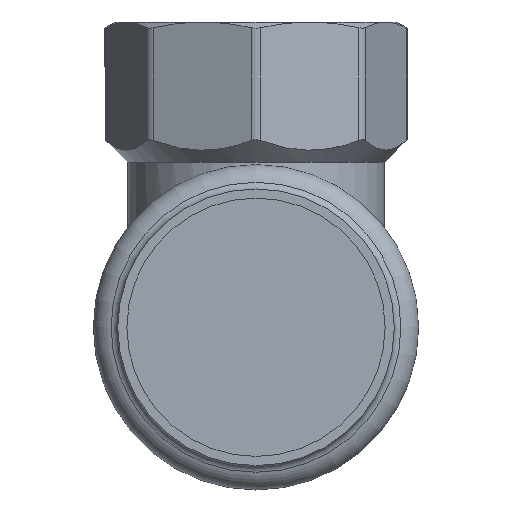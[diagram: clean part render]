
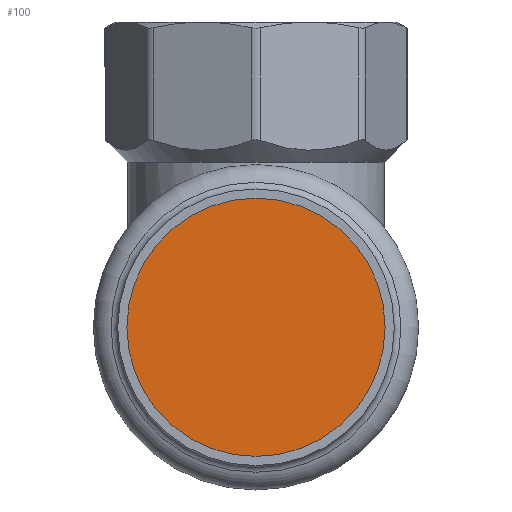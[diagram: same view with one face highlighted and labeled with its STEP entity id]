
A CAD part, front view. The second image highlights one B-rep face of the part: STEP entity #100.
In plain terms, the highlighted planar face has unit normal (0, -1, 0).
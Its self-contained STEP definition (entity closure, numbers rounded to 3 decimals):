
#100=ADVANCED_FACE('',(#477),#479,.T.);
#477=FACE_BOUND('',#478,.T.);
#478=EDGE_LOOP('',(#673));
#479=PLANE('',#480);
#480=AXIS2_PLACEMENT_3D('',#481,#482,#483);
#481=CARTESIAN_POINT('',(0.,-60.292,0.));
#482=DIRECTION('',(0.,-1.,0.));
#483=DIRECTION('',(0.,0.,-1.));
#673=ORIENTED_EDGE('',*,*,#765,.T.);
#765=EDGE_CURVE('',#923,#923,#924,.F.);
#923=VERTEX_POINT('',#2426);
#924=CIRCLE('',#2427,21.15);
#2426=CARTESIAN_POINT('',(0.,-60.292,21.15));
#2427=AXIS2_PLACEMENT_3D('',#2428,#2429,#2430);
#2428=CARTESIAN_POINT('',(0.,-60.292,0.));
#2429=DIRECTION('',(0.,1.,0.));
#2430=DIRECTION('',(0.,0.,1.));
